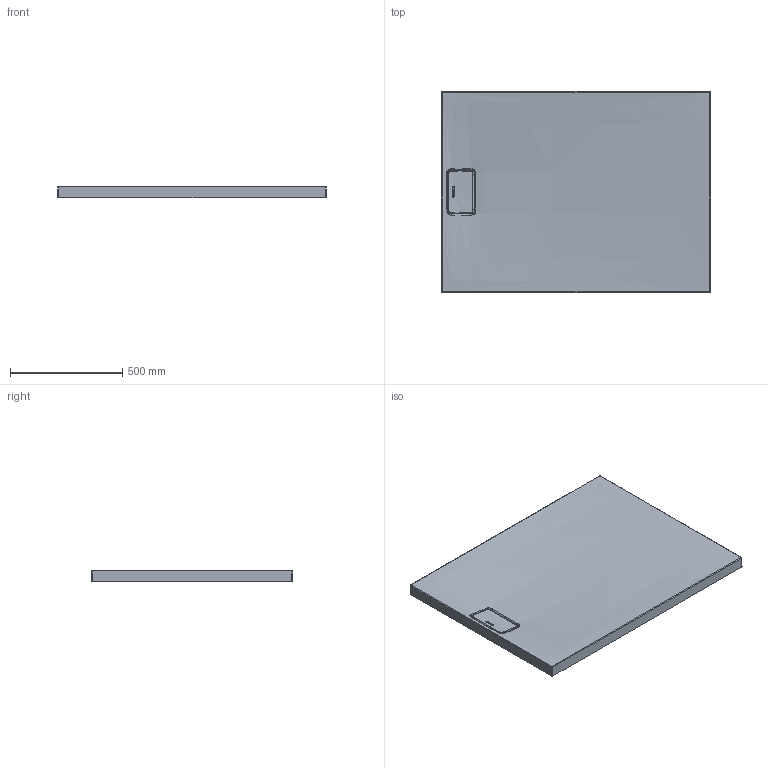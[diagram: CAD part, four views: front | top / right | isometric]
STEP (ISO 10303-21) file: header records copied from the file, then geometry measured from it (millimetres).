
FILE_DESCRIPTION((''),'2;1');
FILE_NAME('C:\Users\Administrator\Desktop\NEWS 2015 Step 1\Stonetto DW\3d\stp\720149.stp','2015-06-23T08:29:52',('Administrator'),(''),'Autodesk Inventor 2011','Autodesk Inventor 2011','');
FILE_SCHEMA(('CONFIG_CONTROL_DESIGN'));
Length unit declared in the file: millimetre
Products named in the file (3): 720149; Ablaufabdeckung
Assembly tree (2 placements, depth 2):
  720149
    720149
    Ablaufabdeckung
Bounding box: 1198 x 898 x 50.01 mm (x, y, z)
Volume: 14342697.5 mm3; surface area: 2690696.2 mm2
Topology: 2 solids, 2 shells, 864 faces, 2175 edges, 1340 vertices
Faces by surface type: bspline 380, plane 283, cylinder 163, torus 17, sphere 16, cone 5
Entity records: 82582 total; most frequent: CARTESIAN_POINT 64250, ORIENTED_EDGE 4314, DIRECTION 2577, EDGE_CURVE 2157, VERTEX_POINT 1335, B_SPLINE_CURVE_WITH_KNOTS 1069, AXIS2_PLACEMENT_3D 1000, EDGE_LOOP 904
